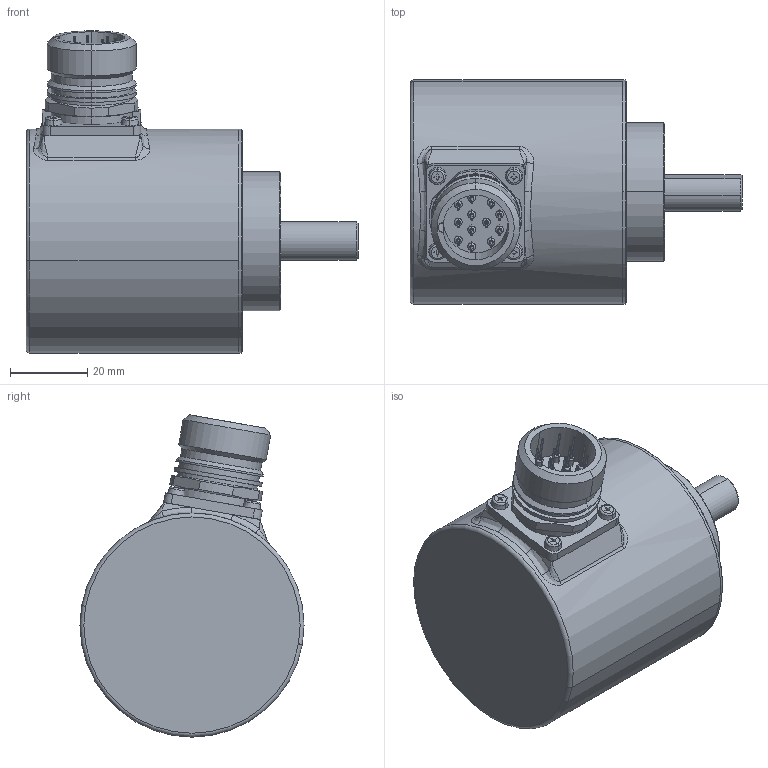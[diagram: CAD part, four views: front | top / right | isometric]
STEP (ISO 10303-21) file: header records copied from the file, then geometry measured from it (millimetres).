
FILE_DESCRIPTION (( 'STEP AP214' ), '1' );
FILE_NAME ('5802.12X5.XXXX.STEP', '2008-09-18T07:34:21', ( 'admin' ), ( 'Fritz Kübler GmbH' ), 'SwSTEP 2.0', 'SolidWorks 2008', '' );
FILE_SCHEMA (( 'AUTOMOTIVE_DESIGN' ));
Length unit declared in the file: millimetre
Products named in the file (1): 5802.12X5.XXXX
Bounding box: 85.95 x 58 x 83.42 mm (x, y, z)
Volume: 59538.5 mm3; surface area: 50588.3 mm2
Topology: 22 solids, 25 shells, 729 faces, 1674 edges, 1019 vertices
Faces by surface type: cylinder 316, plane 172, cone 115, torus 58, sphere 44, bspline 24
Entity records: 31222 total; most frequent: CARTESIAN_POINT 6419, DIRECTION 3789, ORIENTED_EDGE 3172, AXIS2_PLACEMENT_3D 1605, EDGE_CURVE 1586, VERTEX_POINT 989, CIRCLE 899, EDGE_LOOP 885
